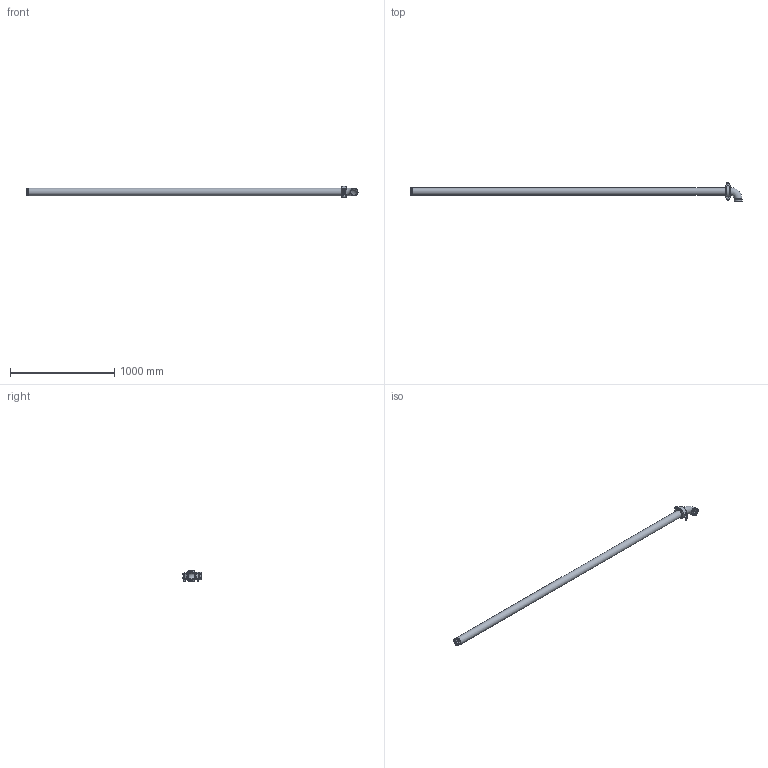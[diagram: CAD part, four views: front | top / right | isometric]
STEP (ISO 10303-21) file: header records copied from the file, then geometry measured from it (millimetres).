
FILE_DESCRIPTION(/* description */ ('VIC LONG RUN FITTING No R23 (OGS)','CAx-IF Rec.Pracs.---Representation and Presentation of Product Manufacturing Information (PMI)---4.0---2014-10-13'),/* implementation_level */ '2;1');
FILE_NAME(/* name */ 'C:\Users\Vjadhav\AppData\Roaming\Autodesk\ApplicationPlugins\Back Up\Victaulic_IPS_Long Run Fittings_No R23 (OGS)\Victaulic_IPS_Long Run Fittings_No R23 (OGS)_2.5 (65).stp',/* time_stamp */ '2020-10-06T20:01:44+06:00',/* author */ ('Vjadhav'),/* organization */ ('Victaulic'),/* preprocessor_version */ 'ST-DEVELOPER v17.2',/* originating_system */ 'Autodesk Inventor 2019',/* authorisation */ '');
FILE_SCHEMA (('AP242_MANAGED_MODEL_BASED_3D_ENGINEERING_MIM_LF { 1 0 10303 442 1 1 4 }'));
Length unit declared in the file: inch
Products named in the file (4): R23-02.5; 010-02.5; 177N-02.5; Pipe_R13-02.5
Assembly tree (3 placements, depth 2):
  R23-02.5
    010-02.5
    177N-02.5
    Pipe_R13-02.5
Bounding box: 3186.11 x 179.72 x 111.25 mm (x, y, z)
Volume: 3881438.8 mm3; surface area: 1435272.5 mm2
Topology: 3 solids, 3 shells, 117 faces, 305 edges, 206 vertices
Faces by surface type: plane 68, cylinder 37, torus 6, cone 4, sphere 2
Full cylindrical faces by diameter (mm): 12.7 x2, 19.05 x2, 60.325 x1, 62.713 x3, 69.088 x4, 73.025 x7
Entity records: 4140 total; most frequent: CARTESIAN_POINT 843, DIRECTION 661, ORIENTED_EDGE 618, EDGE_CURVE 309, AXIS2_PLACEMENT_3D 248, VERTEX_POINT 206, LINE 165, VECTOR 165
